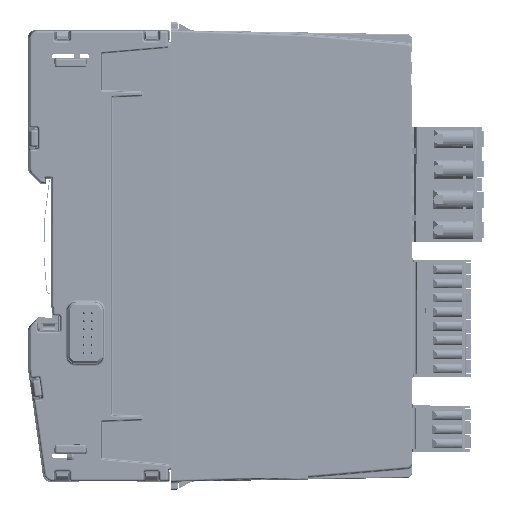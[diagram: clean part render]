
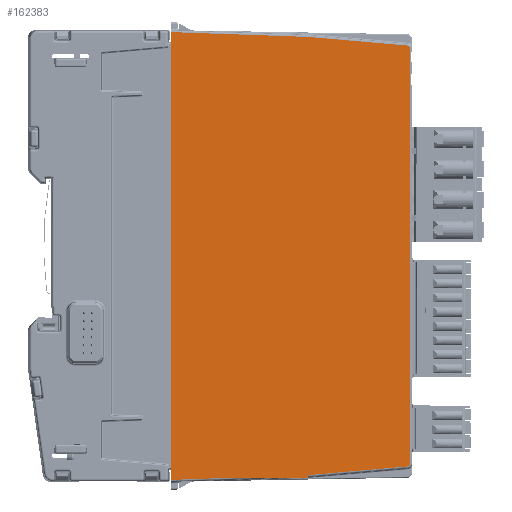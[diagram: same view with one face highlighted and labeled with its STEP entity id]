
A CAD part, left-side view. The second image highlights one B-rep face of the part: STEP entity #162383.
In plain terms, the highlighted planar face has unit normal (-1, -0.018, 0).
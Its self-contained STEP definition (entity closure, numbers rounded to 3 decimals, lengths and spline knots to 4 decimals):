
#15509=FACE_OUTER_BOUND('',#24538,.T.);
#24538=EDGE_LOOP('',(#136839,#136840,#136841,#136842,#136843,#136844,#136845,
#136846,#136847,#136848,#136849,#136850,#136851));
#40417=LINE('',#277663,#56797);
#40430=LINE('',#277735,#56810);
#40487=LINE('',#277963,#56867);
#40810=LINE('',#278994,#57190);
#40811=LINE('',#278996,#57191);
#40812=LINE('',#279000,#57192);
#40813=LINE('',#279004,#57193);
#40814=LINE('',#279006,#57194);
#40815=LINE('',#279008,#57195);
#40816=LINE('',#279010,#57196);
#40817=LINE('',#279011,#57197);
#56797=VECTOR('',#213805,0.3937);
#56810=VECTOR('',#213846,0.3937);
#56867=VECTOR('',#214041,39.3701);
#57190=VECTOR('',#214782,39.3701);
#57191=VECTOR('',#214783,39.3701);
#57192=VECTOR('',#214786,39.3701);
#57193=VECTOR('',#214789,39.3701);
#57194=VECTOR('',#214790,39.3701);
#57195=VECTOR('',#214791,39.3701);
#57196=VECTOR('',#214792,39.3701);
#57197=VECTOR('',#214793,39.3701);
#59560=ELLIPSE('',#174871,0.0315,0.0315);
#59561=ELLIPSE('',#174872,0.0315,0.0315);
#72586=VERTEX_POINT('',#277659);
#72588=VERTEX_POINT('',#277662);
#72610=VERTEX_POINT('',#277730);
#72668=VERTEX_POINT('',#277962);
#72971=VERTEX_POINT('',#278993);
#72972=VERTEX_POINT('',#278995);
#72973=VERTEX_POINT('',#278997);
#72974=VERTEX_POINT('',#278999);
#72975=VERTEX_POINT('',#279001);
#72976=VERTEX_POINT('',#279003);
#72977=VERTEX_POINT('',#279005);
#72978=VERTEX_POINT('',#279007);
#72979=VERTEX_POINT('',#279009);
#93910=EDGE_CURVE('',#72586,#72588,#40417,.T.);
#93937=EDGE_CURVE('',#72588,#72610,#40430,.T.);
#94030=EDGE_CURVE('',#72668,#72610,#40487,.T.);
#94461=EDGE_CURVE('',#72586,#72971,#40810,.T.);
#94462=EDGE_CURVE('',#72971,#72972,#40811,.T.);
#94463=EDGE_CURVE('',#72972,#72973,#59560,.T.);
#94464=EDGE_CURVE('',#72973,#72974,#40812,.T.);
#94465=EDGE_CURVE('',#72974,#72975,#59561,.T.);
#94466=EDGE_CURVE('',#72975,#72976,#40813,.T.);
#94467=EDGE_CURVE('',#72976,#72977,#40814,.T.);
#94468=EDGE_CURVE('',#72977,#72978,#40815,.T.);
#94469=EDGE_CURVE('',#72979,#72978,#40816,.T.);
#94470=EDGE_CURVE('',#72979,#72668,#40817,.T.);
#136839=ORIENTED_EDGE('',*,*,#94461,.T.);
#136840=ORIENTED_EDGE('',*,*,#94462,.T.);
#136841=ORIENTED_EDGE('',*,*,#94463,.T.);
#136842=ORIENTED_EDGE('',*,*,#94464,.T.);
#136843=ORIENTED_EDGE('',*,*,#94465,.T.);
#136844=ORIENTED_EDGE('',*,*,#94466,.T.);
#136845=ORIENTED_EDGE('',*,*,#94467,.T.);
#136846=ORIENTED_EDGE('',*,*,#94468,.T.);
#136847=ORIENTED_EDGE('',*,*,#94469,.F.);
#136848=ORIENTED_EDGE('',*,*,#94470,.T.);
#136849=ORIENTED_EDGE('',*,*,#94030,.T.);
#136850=ORIENTED_EDGE('',*,*,#93937,.F.);
#136851=ORIENTED_EDGE('',*,*,#93910,.F.);
#146041=PLANE('',#174870);
#162383=ADVANCED_FACE('',(#15509),#146041,.T.);
#174870=AXIS2_PLACEMENT_3D('',#278992,#214780,#214781);
#174871=AXIS2_PLACEMENT_3D('',#278998,#214784,#214785);
#174872=AXIS2_PLACEMENT_3D('',#279002,#214787,#214788);
#213805=DIRECTION('',(0.,0.,-1.));
#213846=DIRECTION('',(-0.017,1.,0.));
#214041=DIRECTION('',(0.017,-0.999,0.035));
#214780=DIRECTION('center_axis',(-1.,-0.017,
0.));
#214781=DIRECTION('ref_axis',(-0.017,1.,0.));
#214782=DIRECTION('',(0.017,-0.999,0.035));
#214783=DIRECTION('',(0.017,-0.996,0.087));
#214784=DIRECTION('center_axis',(-1.,-0.017,
0.));
#214785=DIRECTION('ref_axis',(0.017,-1.,0.));
#214786=DIRECTION('',(0.,0.,1.));
#214787=DIRECTION('center_axis',(-1.,-0.017,
0.));
#214788=DIRECTION('ref_axis',(0.017,-1.,0.));
#214789=DIRECTION('',(-0.017,0.996,0.087));
#214790=DIRECTION('',(-0.017,0.999,0.035));
#214791=DIRECTION('',(0.,0.,-1.));
#214792=DIRECTION('',(0.,0.,1.));
#214793=DIRECTION('',(0.,0.,-1.));
#277659=CARTESIAN_POINT('',(0.0005,-2.2096,-4.1958));
#277662=CARTESIAN_POINT('',(0.0005,-2.2096,-4.2206));
#277663=CARTESIAN_POINT('',(0.0005,-2.2096,-3.155));
#277730=CARTESIAN_POINT('',(-0.0119,-1.4997,-4.2206));
#277735=CARTESIAN_POINT('',(-0.0131,-1.4351,-4.2206));
#277962=CARTESIAN_POINT('',(-0.0227,-0.8827,-4.2421));
#277963=CARTESIAN_POINT('',(-0.0282,-0.5654,-4.2532));
#278992=CARTESIAN_POINT('Origin',(-0.0296,-0.489,
-2.0669));
#278993=CARTESIAN_POINT('',(0.0007,-2.2205,-4.1954));
#278994=CARTESIAN_POINT('',(-0.0282,-0.5654,-4.2532));
#278995=CARTESIAN_POINT('',(0.0174,-3.1772,-4.1117));
#278996=CARTESIAN_POINT('',(-0.0261,-0.6869,-4.3296));
#278997=CARTESIAN_POINT('',(0.0179,-3.2059,-4.0803));
#278998=CARTESIAN_POINT('Origin',(0.0173,-3.1744,
-4.0803));
#278999=CARTESIAN_POINT('',(0.0179,-3.2059,-0.0535));
#279000=CARTESIAN_POINT('',(0.0179,-3.2059,-0.0535));
#279001=CARTESIAN_POINT('',(0.0174,-3.1772,-0.0221));
#279002=CARTESIAN_POINT('Origin',(0.0173,-3.1744,
-0.0535));
#279003=CARTESIAN_POINT('',(0.0007,-2.2205,0.0616));
#279004=CARTESIAN_POINT('',(-0.0261,-0.6869,0.1957));
#279005=CARTESIAN_POINT('',(-0.0227,-0.8827,0.1083));
#279006=CARTESIAN_POINT('',(-0.0282,-0.5654,0.1194));
#279007=CARTESIAN_POINT('',(-0.0227,-0.8827,-0.0312));
#279008=CARTESIAN_POINT('',(-0.0227,-0.8827,0.128));
#279009=CARTESIAN_POINT('',(-0.0227,-0.8827,-4.1027));
#279010=CARTESIAN_POINT('',(-0.0227,-0.8827,-7.5932));
#279011=CARTESIAN_POINT('',(-0.0227,-0.8827,0.128));
